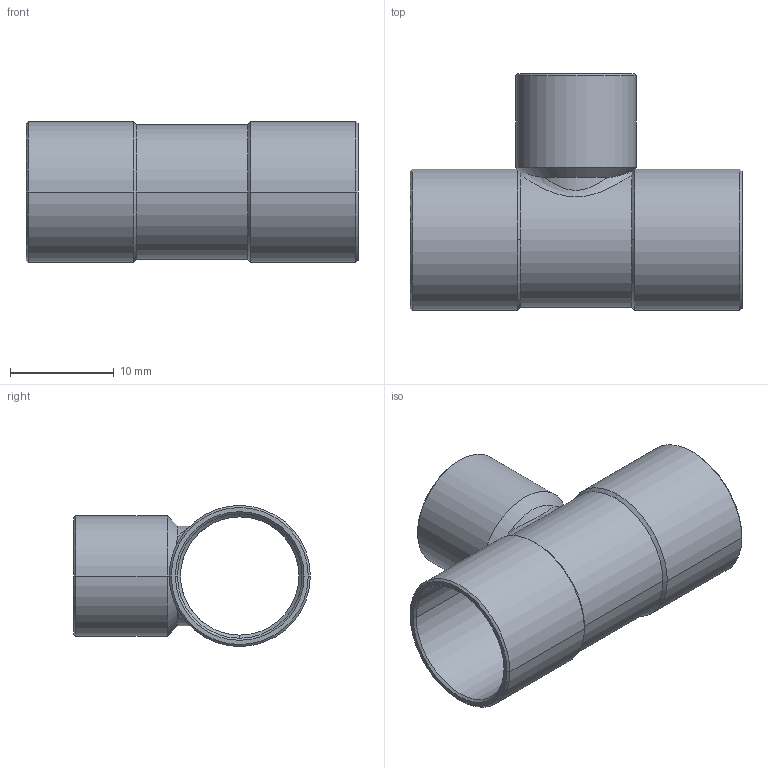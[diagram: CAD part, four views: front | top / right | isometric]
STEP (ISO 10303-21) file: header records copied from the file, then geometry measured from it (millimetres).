
FILE_DESCRIPTION((''),'2;1');
FILE_NAME('P:\Bouwmaten\z-maattekeningen 3D\5000\5130\5130121012.stp','2005-10-26T11:52:23',('Kris'),(''),'Autodesk Inventor 8','Autodesk Inventor 8','');
FILE_SCHEMA(('AUTOMOTIVE_DESIGN { 1 0 10303 214 1 1 1 1 }'));
Length unit declared in the file: millimetre
Products named in the file (1): 5130121012
Bounding box: 32 x 22.8 x 13.6 mm (x, y, z)
Volume: 1242 mm3; surface area: 3202.2 mm2
Topology: 1 solids, 1 shells, 49 faces, 128 edges, 80 vertices
Faces by surface type: cone 20, cylinder 16, bspline 10, plane 3
Entity records: 2142 total; most frequent: CARTESIAN_POINT 933, ORIENTED_EDGE 256, DIRECTION 248, EDGE_CURVE 128, AXIS2_PLACEMENT_3D 105, VERTEX_POINT 80, CIRCLE 65, EDGE_LOOP 52
